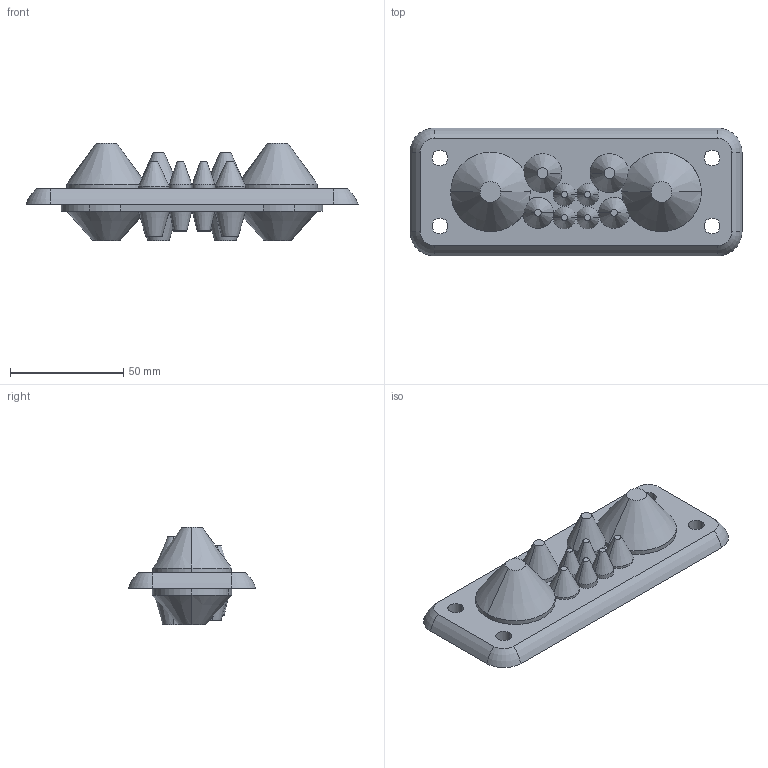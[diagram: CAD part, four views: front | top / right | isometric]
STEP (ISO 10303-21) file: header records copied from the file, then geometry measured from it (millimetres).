
FILE_DESCRIPTION (( 'STEP AP203' ), '1' );
FILE_NAME ('103607.STEP', '2012-12-04T10:57:23', ( 'Joni' ), ( 'Hewlett-Packard Company' ), 'SwSTEP 2.0', 'SolidWorks 2012', '' );
FILE_SCHEMA (( 'CONFIG_CONTROL_DESIGN' ));
Length unit declared in the file: millimetre
Products named in the file (1): 103607
Bounding box: 146.41 x 56.41 x 43 mm (x, y, z)
Volume: 100752.5 mm3; surface area: 30063.4 mm2
Topology: 1 solids, 11 shells, 222 faces, 519 edges, 320 vertices
Faces by surface type: cylinder 81, cone 68, plane 51, torus 18, bspline 4
Entity records: 6520 total; most frequent: CARTESIAN_POINT 1268, DIRECTION 1207, ORIENTED_EDGE 998, AXIS2_PLACEMENT_3D 521, EDGE_CURVE 499, VERTEX_POINT 320, CIRCLE 302, EDGE_LOOP 251
